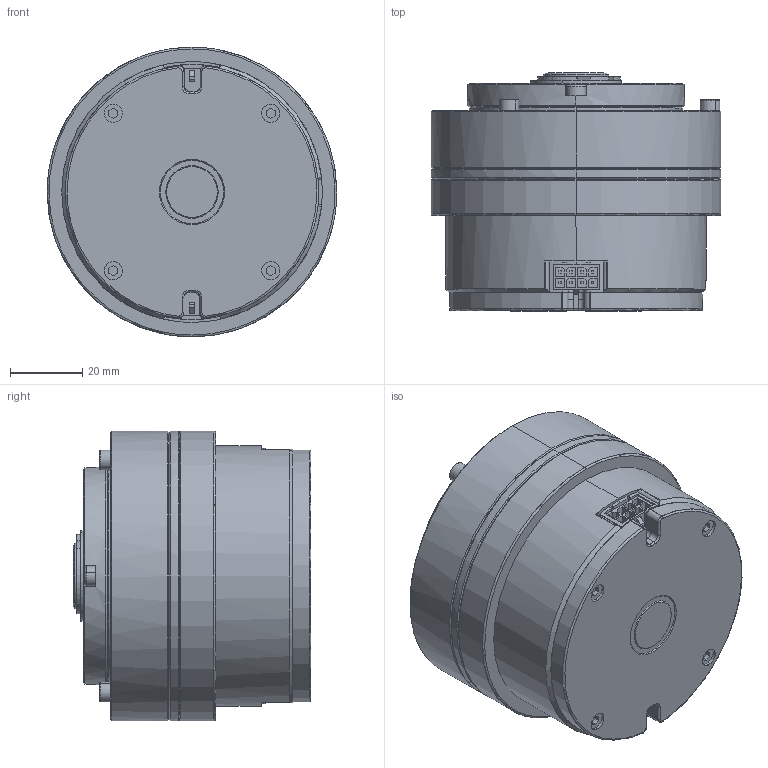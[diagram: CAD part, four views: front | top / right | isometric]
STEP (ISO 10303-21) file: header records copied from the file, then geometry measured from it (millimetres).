
FILE_DESCRIPTION (( 'STEP AP214' ), '1' );
FILE_NAME ('QDD_Pro-PR60-x-80_v2_2.STEP', '2019-07-17T02:14:07', ( 'Microsoft' ), ( 'Microsoft' ), 'SwSTEP 2.0', 'SolidWorks 2018', '' );
FILE_SCHEMA (( 'AUTOMOTIVE_DESIGN' ));
Length unit declared in the file: millimetre
Products named in the file (1): QDD_Pro-PR60-x-80_v2_2
Bounding box: 80 x 65.68 x 80 mm (x, y, z)
Volume: 233349.2 mm3; surface area: 113084.8 mm2
Topology: 106 solids, 106 shells, 2828 faces, 7032 edges, 4459 vertices
Faces by surface type: plane 1529, cylinder 740, cone 403, bspline 108, torus 48
Entity records: 126882 total; most frequent: CARTESIAN_POINT 29680, ORIENTED_EDGE 13880, DIRECTION 12404, EDGE_CURVE 6940, VERTEX_POINT 4459, LINE 4332, VECTOR 4332, AXIS2_PLACEMENT_3D 4036
